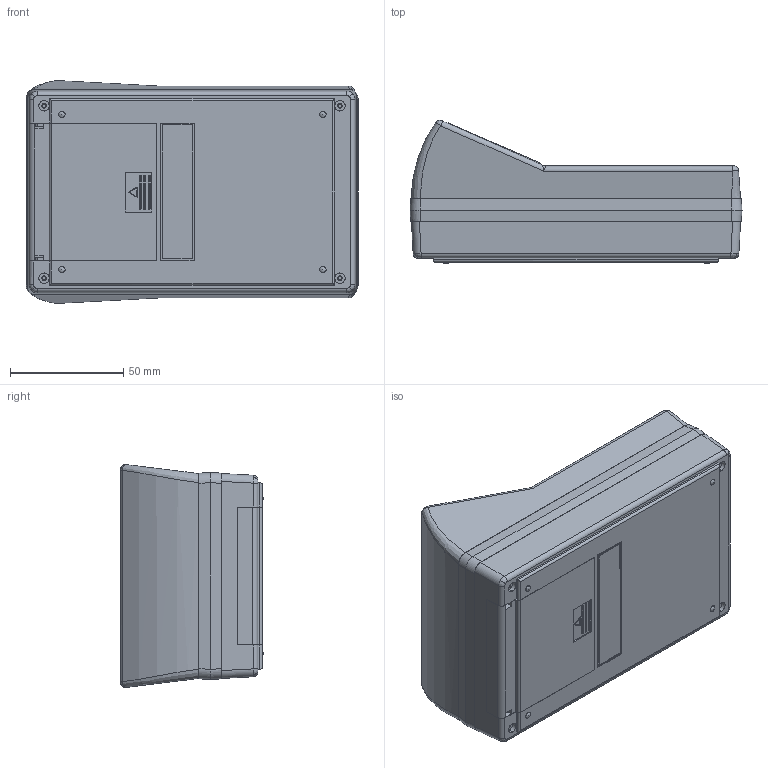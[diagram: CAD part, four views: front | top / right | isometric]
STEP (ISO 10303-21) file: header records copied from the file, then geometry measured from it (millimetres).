
FILE_DESCRIPTION (( 'STEP AP214' ), '1' );
FILE_NAME ('90-53-3A-E-R.STEP', '2020-10-16T13:46:34', ( 'Rudy' ), ( '' ), 'SwSTEP 2.0', 'SolidWorks 2014', '' );
FILE_SCHEMA (( 'AUTOMOTIVE_DESIGN' ));
Length unit declared in the file: millimetre
Products named in the file (7): 3AAdoor; 90-bessel; Top Angled LCD; 90 Angle LCD expander; 90-3AA; 90-53-3A-E-R; 90 PCB 3AA
Assembly tree (6 placements, depth 2):
  90-53-3A-E-R
    90-3AA
    90 Angle LCD expander
    Top Angled LCD
    90-bessel
    3AAdoor
    90 PCB 3AA
Bounding box: 146.8 x 63.32 x 98.54 mm (x, y, z)
Volume: 154951.6 mm3; surface area: 137540.4 mm2
Topology: 6 solids, 6 shells, 810 faces, 2166 edges, 1396 vertices
Faces by surface type: plane 523, cylinder 181, cone 52, torus 24, bspline 20, sphere 10
Entity records: 26306 total; most frequent: CARTESIAN_POINT 5842, ORIENTED_EDGE 4292, DIRECTION 4051, EDGE_CURVE 2146, VECTOR 1565, LINE 1565, VERTEX_POINT 1388, AXIS2_PLACEMENT_3D 1243
